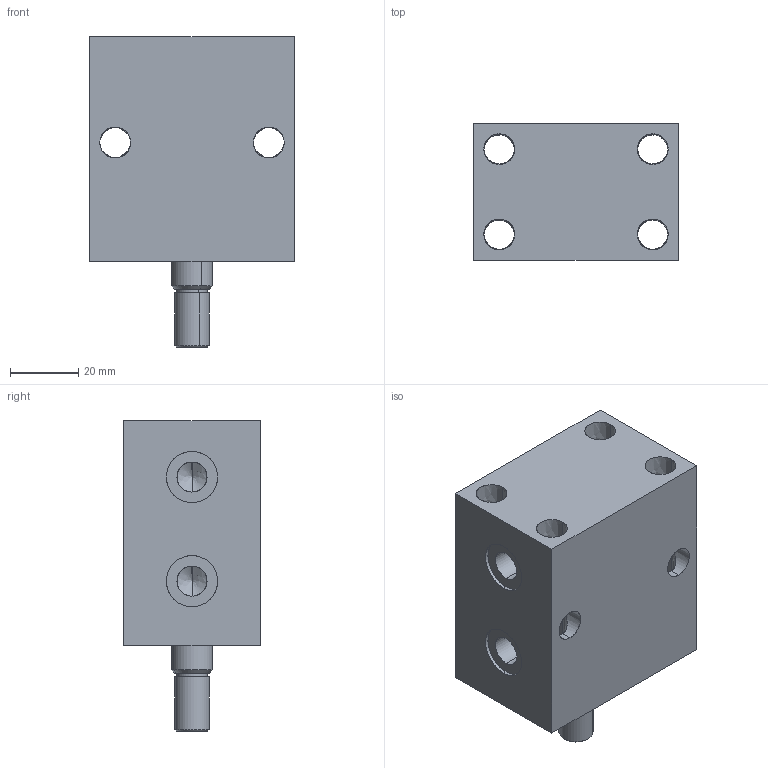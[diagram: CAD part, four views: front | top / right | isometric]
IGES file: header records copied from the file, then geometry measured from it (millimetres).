
Start section: SolidWorks IGES file using analytic representation for surfaces
Global section: file name: D:\karuppas\Clasp\3D model\Block cylinder B01C-Male thread - Copy\B01C-016M\Block cylinder B01C-016M.IGS; native system: SolidWorks 2017; preprocessor: SolidWorks 2017; author: pc; date: 220709.232427; units: millimetre
Bounding box: 60 x 40 x 91 mm (x, y, z)
Surface area: 30823.3 mm2 (no closed solid volume)
Topology: 0 solids, 0 shells, 351 faces, 5429 edges, 5425 vertices
Faces by surface type: bspline 297, revolution 54
